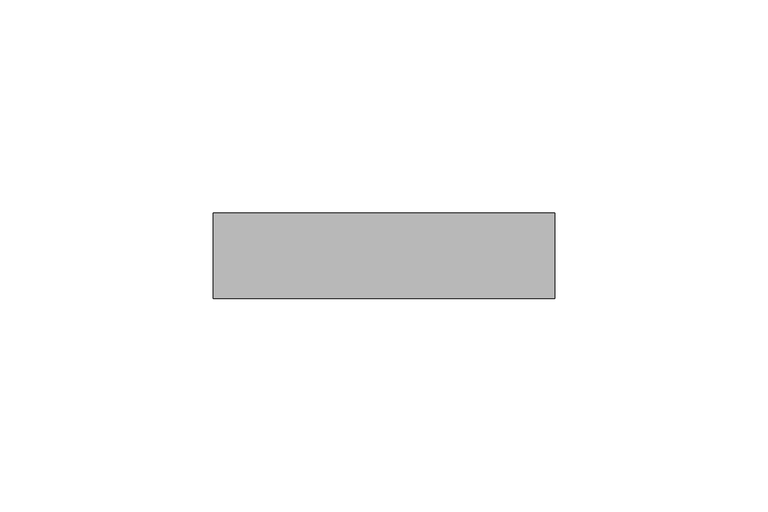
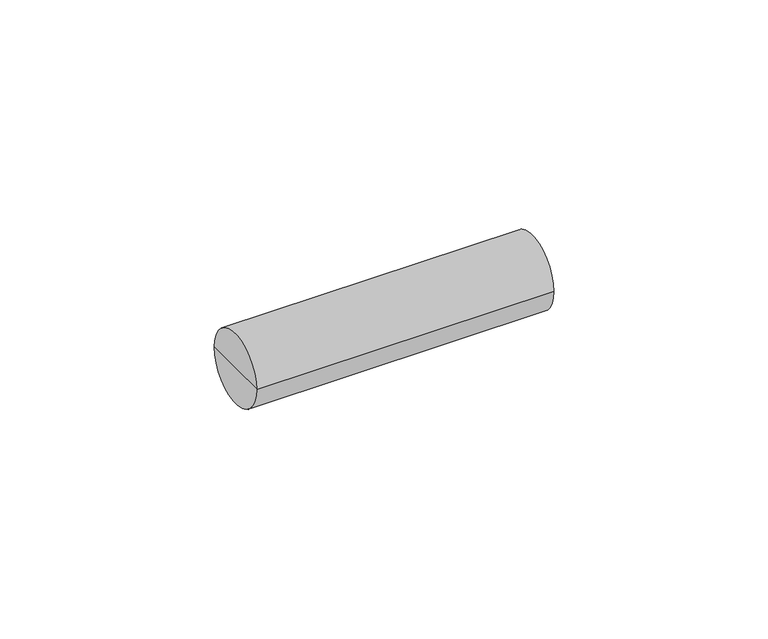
"""IFC4 building model written with IfcOpenShell, lengths in millimetres: cable carrier fitting geometry, Муфта прямая труба-труба армированная IP65 GA : CTA10D-GA16-K41-050."""

import ifcopenshell
import ifcopenshell.guid

model = None  # the IFC model being written
_history = None  # IfcOwnerHistory: only IFC2X3 demands one
_inside = {}  # id of a spatial element -> (the spatial element, [elements in it])
_under = {}  # id of a project, library or spatial element -> (it, [spatial elements below it])
_declared = {}  # id of a project -> (the project, [libraries it declares])
_typed = {}  # id of a type object -> (the type object, [elements of that type])
_made_of = {}  # id of a material, layer set ... -> (it, [elements and type objects made of it])


def new_model(schema):
    """Start an empty IFC model of exactly this schema.

    Asked for "IFC4X3", IfcOpenShell would pick the latest addendum, in which some entities
    have other attributes; the version numbers below select the first issue.
    IFC2X3 requires an IfcOwnerHistory on every rooted entity: one is made here for all.
    """
    global model, _history
    if schema == "IFC4X3":
        model = ifcopenshell.file(schema_version=(4, 3, 0, 0))
    else:
        model = ifcopenshell.file(schema=schema)
    _inside.clear()
    _under.clear()
    _declared.clear()
    _typed.clear()
    _made_of.clear()
    _history = None
    if model.schema == "IFC2X3":
        org = make("IfcOrganization", Name="unknown")
        user = make(
            "IfcPersonAndOrganization",
            ThePerson=make("IfcPerson", FamilyName="unknown"),
            TheOrganization=org,
        )
        app = make(
            "IfcApplication",
            ApplicationDeveloper=org,
            Version="unknown",
            ApplicationFullName="unknown",
            ApplicationIdentifier="unknown",
        )
        _history = make(
            "IfcOwnerHistory",
            OwningUser=user,
            OwningApplication=app,
            ChangeAction="ADDED",
            CreationDate=0,
        )
    return model


def make(cls, **values):
    """One entity of the class cls with the attributes given. An attribute that is None is left unset."""
    return model.create_entity(
        cls, **{name: value for name, value in values.items() if value is not None}
    )


def rooted(cls, **values):
    """An entity with a GlobalId (a new one), such as an element, a storey or a relation."""
    return make(cls, GlobalId=ifcopenshell.guid.new(), OwnerHistory=_history, **values)


def si_unit(unit_type, name, prefix=None):
    """IfcSIUnit, for example si_unit("LENGTHUNIT", "METRE", prefix="MILLI")."""
    return make("IfcSIUnit", UnitType=unit_type, Prefix=prefix, Name=name)


def assignment(units):
    """IfcUnitAssignment: the units of a project."""
    return None if units is None else make("IfcUnitAssignment", Units=units)


def point(xyz):
    """IfcCartesianPoint."""
    return None if xyz is None else make("IfcCartesianPoint", Coordinates=xyz)


def direction(xyz):
    """IfcDirection."""
    return None if xyz is None else make("IfcDirection", DirectionRatios=xyz)


def frame(location, z_axis=None, x_axis=None):
    """IfcAxis2Placement3D, a coordinate frame: its origin and axes. An axis left out is left unset."""
    return make(
        "IfcAxis2Placement3D",
        Location=point(location),
        Axis=direction(z_axis),
        RefDirection=direction(x_axis),
    )


def origin():
    """The frame at (0, 0, 0) with its axes left unset."""
    return frame((0.0, 0.0, 0.0))


def place(relative_to, where):
    """IfcLocalPlacement: puts the frame where relative to a parent placement (None: the world)."""
    return make(
        "IfcLocalPlacement", PlacementRelTo=relative_to, RelativePlacement=where
    )


def context(
    kind, dimensions, precision=None, world=None, true_north=None, identifier=None
):
    """IfcGeometricRepresentationContext, for example the 3D "Model" context."""
    return make(
        "IfcGeometricRepresentationContext",
        ContextIdentifier=identifier,
        ContextType=kind,
        CoordinateSpaceDimension=dimensions,
        Precision=precision,
        WorldCoordinateSystem=world,
        TrueNorth=true_north,
    )


def project(units=None, contexts=None):
    """IfcProject with its units and contexts."""
    return rooted(
        "IfcProject",
        Name="project",
        RepresentationContexts=contexts,
        UnitsInContext=assignment(units),
    )


def spatial(cls, under=None, at=None, **own):
    """A site, building, storey or space (cls), placed at a placement, below another one or the project."""
    s = rooted(cls, ObjectPlacement=at, **own)
    if under is not None:
        _under.setdefault(under.id(), (under, []))[1].append(s)
    return s


def circle_curve(where, radius):
    """IfcCircle in the frame where."""
    return make("IfcCircle", Position=where, Radius=radius)


def shape(context_of_items, identifier, shape_type, items):
    """IfcShapeRepresentation: the items that make up one representation, for example the "Body"."""
    return make(
        "IfcShapeRepresentation",
        ContextOfItems=context_of_items,
        RepresentationIdentifier=identifier,
        RepresentationType=shape_type,
        Items=items,
    )


def source(mapping_origin, context_of_items, identifier, shape_type, items):
    """IfcRepresentationMap: a shape defined once, which mapped items show again and again."""
    return make(
        "IfcRepresentationMap",
        MappingOrigin=mapping_origin,
        MappedRepresentation=shape(context_of_items, identifier, shape_type, items),
    )


def transform(
    local_origin,
    x_axis=None,
    y_axis=None,
    z_axis=None,
    scale=None,
    scale2=None,
    scale3=None,
    uniform=True,
):
    """IfcCartesianTransformationOperator3D, or its non-uniform kind. x_axis, y_axis, z_axis: its Axis1, 2, 3."""
    if uniform:
        return make(
            "IfcCartesianTransformationOperator3D",
            Axis1=direction(x_axis),
            Axis2=direction(y_axis),
            LocalOrigin=point(local_origin),
            Scale=scale,
            Axis3=direction(z_axis),
        )
    return make(
        "IfcCartesianTransformationOperator3DnonUniform",
        Axis1=direction(x_axis),
        Axis2=direction(y_axis),
        LocalOrigin=point(local_origin),
        Scale=scale,
        Axis3=direction(z_axis),
        Scale2=scale2,
        Scale3=scale3,
    )


def mapped(mapping_source, mapping_target):
    """IfcMappedItem: shows the shape of a source again, moved by a transform."""
    return make(
        "IfcMappedItem", MappingSource=mapping_source, MappingTarget=mapping_target
    )


def made_of(thing, what):
    """Note that an element or type object is made of a material, layer set ...; save() writes the relation."""
    if what is not None:
        _made_of.setdefault(what.id(), (what, []))[1].append(thing)
    return thing


def element(
    cls,
    number,
    at=None,
    inside=None,
    cuts=None,
    type_object=None,
    material=None,
    context=None,
    identifier="Body",
    shape_type=None,
    held_by="IfcProductDefinitionShape",
    body=None,
    shapes=None,
    **own,
):
    """One element of the class cls, such as IfcWall. Its Tag is "e" and its number.

    at: its placement. inside: the storey or other place that contains it. cuts: it is an
    opening in that element (IfcRelVoidsElement). A single representation is given by context,
    identifier, shape_type and body (its items); several are given by shapes. held_by: the class
    of the entity that holds the representations. save() writes the other relations.
    """
    e = rooted(cls, Tag="e%d" % number, ObjectPlacement=at, **own)
    if body is not None:
        shapes = [shape(context, identifier, shape_type, body)]
    if shapes is not None:
        e.Representation = make(held_by, Representations=shapes)
    if inside is not None:
        _inside.setdefault(inside.id(), (inside, []))[1].append(e)
    if cuts is not None:
        rooted(
            "IfcRelVoidsElement", RelatingBuildingElement=cuts, RelatedOpeningElement=e
        )
    if type_object is not None:
        _typed.setdefault(type_object.id(), (type_object, []))[1].append(e)
    return made_of(e, material)


def aggregate(whole, parts):
    """IfcRelAggregates: a whole, such as a stair, and the parts it consists of."""
    return rooted("IfcRelAggregates", RelatingObject=whole, RelatedObjects=parts)


def save(model, path):
    """Write the relations noted so far, then the file.

    IfcRelAggregates (storeys below a building ...), IfcRelContainedInSpatialStructure (elements
    in a storey), IfcRelDefinesByType, IfcRelAssociatesMaterial and IfcRelDeclares: one each for
    every whole, place, type object, material and project.
    """
    for whole, parts in _under.values():
        aggregate(whole, parts)
    for where, things in _inside.values():
        rooted(
            "IfcRelContainedInSpatialStructure",
            RelatedElements=things,
            RelatingStructure=where,
        )
    for kind, things in _typed.values():
        rooted("IfcRelDefinesByType", RelatedObjects=things, RelatingType=kind)
    for what, things in _made_of.values():
        rooted("IfcRelAssociatesMaterial", RelatedObjects=things, RelatingMaterial=what)
    for by, libraries in _declared.values():
        rooted("IfcRelDeclares", RelatingContext=by, RelatedDefinitions=libraries)
    model.write(path)


def plane_surface(at):
    """IfcPlane: the flat surface through the origin of the frame at, square to its z axis."""
    return make("IfcPlane", Position=at)


def cylinder_surface(at, radius):
    """IfcCylindricalSurface: all points at the distance radius from the z axis of the frame at."""
    return make("IfcCylindricalSurface", Position=at, Radius=radius)


def advanced_brep(points, edges, surfaces, faces):
    """IfcAdvancedBrep: a solid bounded by faces that lie on surfaces and meet in shared edges.

    An edge is (start, end): straight between two places in points (the first is 0);
    or (start, end, curve); or (start, end, curve, False) where it runs against its curve.
    A face is (place in surfaces, loops), or (place, loops, False) where it looks against
    its surface's normal. A loop lists edges by number (the first is 1), with a minus sign
    where the edge is run from its end to its start. The first loop is the outer one.
    """
    corners = [point(p) for p in points]
    vertices = [make("IfcVertexPoint", VertexGeometry=c) for c in corners]
    made = []
    for start, end, *more in edges:
        made.append(
            make(
                "IfcEdgeCurve",
                EdgeStart=vertices[start],
                EdgeEnd=vertices[end],
                EdgeGeometry=more[0] if more else make("IfcPolyline", Points=[corners[start], corners[end]]),
                SameSense=more[1] if len(more) > 1 else True,
            )
        )
    hull = []
    for where, loops, *sense in faces:
        bounds = []
        for j, loop in enumerate(loops):
            ring = [make("IfcOrientedEdge", EdgeElement=made[abs(k) - 1], Orientation=k > 0) for k in loop]
            bounds.append(
                make(
                    "IfcFaceOuterBound" if j == 0 else "IfcFaceBound",
                    Bound=make("IfcEdgeLoop", EdgeList=ring),
                    Orientation=True,
                )
            )
        hull.append(make("IfcAdvancedFace", Bounds=bounds, FaceSurface=surfaces[where], SameSense=sense[0] if sense else True))
    return make("IfcAdvancedBrep", Outer=make("IfcClosedShell", CfsFaces=hull))


def cable_carrier_fitting_7ef405d8(model_context):
    return source(origin(), model_context, "Body", "AdvancedBrep", [
        advanced_brep(
        [(-40.0, -10.0, 0.0), (-40.0, 10.0, 0.0), (40.0, 10.0, 0.0), (40.0, -10.0, 0.0), (-40.0, 0.0, 0.0), (40.0, 0.0, 0.0)],
        [
            (0, 1, circle_curve(frame((-40.0, 0.0, 0.0), z_axis=(1.0, 0.0, 0.0), x_axis=(0.0, 1.0, 0.0)), 10.0)),
            (1, 2),
            (2, 3, circle_curve(frame((40.0, 0.0, 0.0), z_axis=(-1.0, 0.0, 0.0), x_axis=(0.0, 1.0, 0.0)), 10.0)),
            (3, 0),
            (1, 0, circle_curve(frame((-40.0, 0.0, 0.0), z_axis=(1.0, 0.0, 0.0), x_axis=(0.0, 1.0, 0.0)), 10.0)),
            (3, 2, circle_curve(frame((40.0, 0.0, 0.0), z_axis=(-1.0, 0.0, 0.0), x_axis=(0.0, 1.0, 0.0)), 10.0)),
            (4, 1),
            (0, 4),
            (2, 5),
            (5, 3),
        ],
        [
            cylinder_surface(frame((1965.0, 0.0, 0.0), z_axis=(-1.0, 0.0, 0.0), x_axis=(0.0, 1.0, 0.0)), 10.0),
            plane_surface(frame((-40.0, 0.0, 0.0), z_axis=(-1.0, 0.0, 0.0), x_axis=(0.0, 1.0, 0.0))),
            plane_surface(frame((40.0, 0.0, 0.0), z_axis=(1.0, 0.0, 0.0), x_axis=(0.0, 1.0, 0.0))),
        ],
        [
            (0, [[1, 2, 3, 4]]),
            (0, [[5, -4, 6, -2]]),
            (1, [[7, -1, 8]]),
            (1, [[-8, -5, -7]]),
            (2, [[-3, 9, 10]]),
            (2, [[-6, -10, -9]]),
        ],
    ),
    ])


if __name__ == "__main__":
    model = new_model("IFC4")
    model_context = context("Model", 3, world=origin())
    ifc_project = project(units=[si_unit("LENGTHUNIT", "METRE", prefix="MILLI")], contexts=[model_context])
    site = spatial("IfcSite", under=ifc_project)
    building = spatial("IfcBuilding", under=site)
    placement = place(None, origin())
    cable_carrier_fitting_shape = cable_carrier_fitting_7ef405d8(model_context)
    element("IfcCableCarrierFitting", 1, ObjectType="Муфта прямая труба-труба армированная IP65 GA : CTA10D-GA16-K41-050", at=placement, inside=building, context=model_context, shape_type="MappedRepresentation", body=[
        mapped(cable_carrier_fitting_shape, transform((0.0, 0.0, 0.0), x_axis=(1.0, 0.0, 0.0), y_axis=(0.0, 1.0, 0.0), z_axis=(0.0, 0.0, 1.0))),
    ])
    save(model, "model.ifc")
